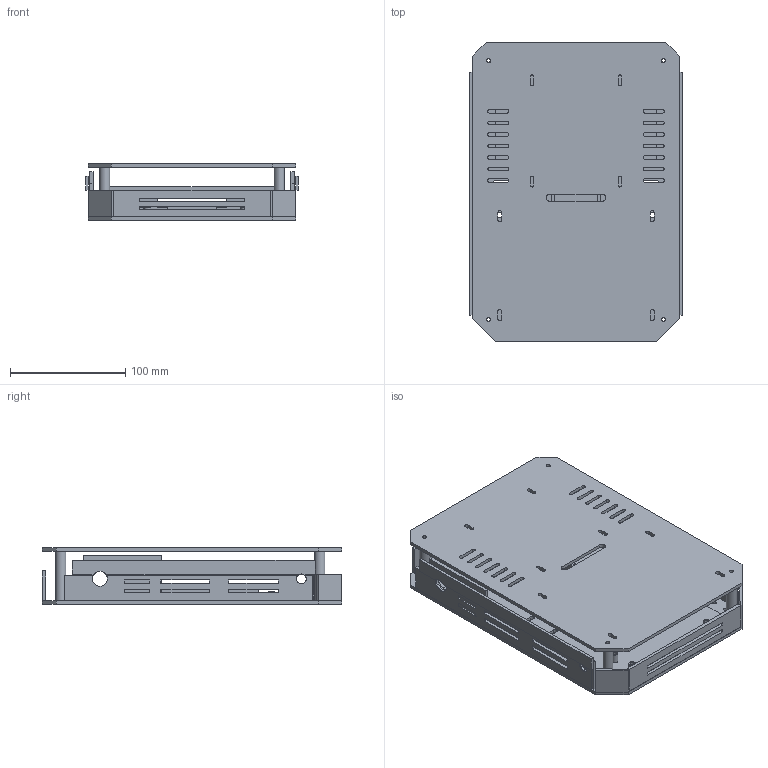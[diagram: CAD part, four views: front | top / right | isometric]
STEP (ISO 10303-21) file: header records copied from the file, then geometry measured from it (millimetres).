
FILE_DESCRIPTION(('FreeCAD Model'),'2;1');
FILE_NAME('Open CASCADE Shape Model','2026-10-12T22:45:17',('FreeCAD'),( 'FreeCAD'),'Open CASCADE STEP processor 7.8','FreeCAD','Unknown');
FILE_SCHEMA(('AUTOMOTIVE_DESIGN { 1 0 10303 214 1 1 1 1 }'));
Length unit declared in the file: millimetre
Products named in the file (1): Open CASCADE STEP translator 7.8 1
Bounding box: 185 x 260 x 49 mm (x, y, z)
Volume: 389514 mm3; surface area: 290461.6 mm2
Topology: 25 solids, 25 shells, 401 faces, 1058 edges, 708 vertices
Faces by surface type: plane 269, cylinder 132
Full cylindrical faces by diameter (mm): 3.2 x6, 3.3 x4, 3.4 x46, 6 x6, 8.5 x2, 9 x4, 13 x2
Entity records: 12778 total; most frequent: CARTESIAN_POINT 2168, DIRECTION 2134, ORIENTED_EDGE 2116, EDGE_CURVE 1058, LINE 786, VECTOR 786, VERTEX_POINT 708, AXIS2_PLACEMENT_3D 674
